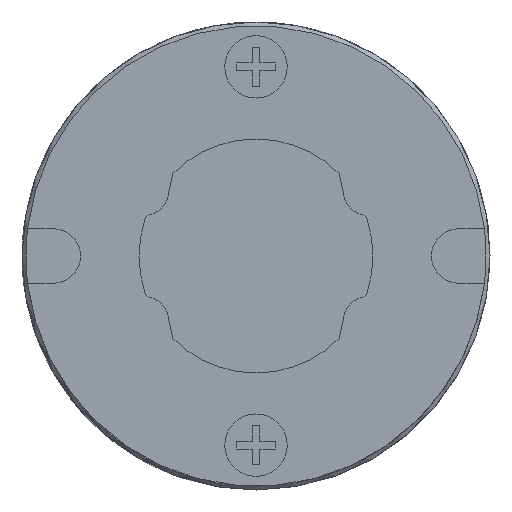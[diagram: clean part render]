
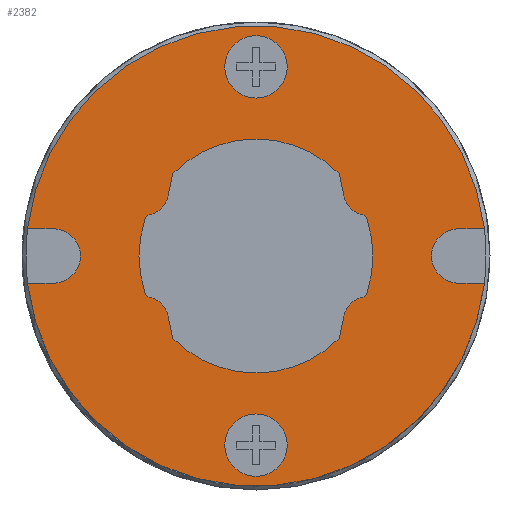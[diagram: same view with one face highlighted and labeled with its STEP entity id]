
A CAD part, left-side view. The second image highlights one B-rep face of the part: STEP entity #2382.
In plain terms, the highlighted planar face has unit normal (-1, 0, 0).
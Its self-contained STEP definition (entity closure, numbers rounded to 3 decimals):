
#50=PLANE('',#2605);
#190=LINE('',#3729,#432);
#191=LINE('',#3733,#433);
#192=LINE('',#3737,#434);
#193=LINE('',#3741,#435);
#194=LINE('',#3755,#436);
#195=LINE('',#3763,#437);
#196=LINE('',#3775,#438);
#197=LINE('',#3783,#439);
#432=VECTOR('',#3000,1000.);
#433=VECTOR('',#3003,1000.);
#434=VECTOR('',#3006,1000.);
#435=VECTOR('',#3009,1000.);
#436=VECTOR('',#3022,1000.);
#437=VECTOR('',#3029,1000.);
#438=VECTOR('',#3040,1000.);
#439=VECTOR('',#3047,1000.);
#796=ORIENTED_EDGE('',*,*,#1430,.T.);
#797=ORIENTED_EDGE('',*,*,#1431,.T.);
#798=ORIENTED_EDGE('',*,*,#1432,.T.);
#799=ORIENTED_EDGE('',*,*,#1433,.F.);
#800=ORIENTED_EDGE('',*,*,#1434,.T.);
#801=ORIENTED_EDGE('',*,*,#1435,.T.);
#802=ORIENTED_EDGE('',*,*,#1436,.T.);
#803=ORIENTED_EDGE('',*,*,#1364,.F.);
#804=ORIENTED_EDGE('',*,*,#1437,.F.);
#805=ORIENTED_EDGE('',*,*,#1438,.F.);
#806=ORIENTED_EDGE('',*,*,#1439,.F.);
#807=ORIENTED_EDGE('',*,*,#1440,.F.);
#808=ORIENTED_EDGE('',*,*,#1441,.F.);
#809=ORIENTED_EDGE('',*,*,#1442,.T.);
#810=ORIENTED_EDGE('',*,*,#1443,.F.);
#811=ORIENTED_EDGE('',*,*,#1444,.F.);
#812=ORIENTED_EDGE('',*,*,#1445,.F.);
#813=ORIENTED_EDGE('',*,*,#1446,.F.);
#814=ORIENTED_EDGE('',*,*,#1447,.F.);
#815=ORIENTED_EDGE('',*,*,#1448,.T.);
#816=ORIENTED_EDGE('',*,*,#1449,.F.);
#817=ORIENTED_EDGE('',*,*,#1450,.F.);
#818=ORIENTED_EDGE('',*,*,#1451,.F.);
#819=ORIENTED_EDGE('',*,*,#1452,.T.);
#820=ORIENTED_EDGE('',*,*,#1453,.F.);
#821=ORIENTED_EDGE('',*,*,#1454,.F.);
#822=ORIENTED_EDGE('',*,*,#1455,.F.);
#823=ORIENTED_EDGE('',*,*,#1456,.F.);
#824=ORIENTED_EDGE('',*,*,#1457,.F.);
#825=ORIENTED_EDGE('',*,*,#1458,.T.);
#1364=EDGE_CURVE('',#1692,#1693,#1918,.T.);
#1430=EDGE_CURVE('',#1692,#1756,#190,.T.);
#1431=EDGE_CURVE('',#1756,#1757,#1946,.T.);
#1432=EDGE_CURVE('',#1757,#1758,#191,.T.);
#1433=EDGE_CURVE('',#1759,#1758,#1947,.T.);
#1434=EDGE_CURVE('',#1759,#1760,#192,.T.);
#1435=EDGE_CURVE('',#1760,#1761,#1948,.T.);
#1436=EDGE_CURVE('',#1761,#1693,#193,.T.);
#1437=EDGE_CURVE('',#1762,#1762,#1949,.F.);
#1438=EDGE_CURVE('',#1763,#1763,#1950,.F.);
#1439=EDGE_CURVE('',#1764,#1765,#1951,.F.);
#1440=EDGE_CURVE('',#1766,#1764,#1952,.F.);
#1441=EDGE_CURVE('',#1767,#1766,#1953,.F.);
#1442=EDGE_CURVE('',#1767,#1768,#1954,.F.);
#1443=EDGE_CURVE('',#1769,#1768,#194,.T.);
#1444=EDGE_CURVE('',#1770,#1769,#1955,.F.);
#1445=EDGE_CURVE('',#1771,#1770,#1956,.F.);
#1446=EDGE_CURVE('',#1772,#1771,#1957,.F.);
#1447=EDGE_CURVE('',#1773,#1772,#195,.T.);
#1448=EDGE_CURVE('',#1773,#1774,#1958,.F.);
#1449=EDGE_CURVE('',#1775,#1774,#1959,.F.);
#1450=EDGE_CURVE('',#1776,#1775,#1960,.F.);
#1451=EDGE_CURVE('',#1777,#1776,#1961,.F.);
#1452=EDGE_CURVE('',#1777,#1778,#1962,.F.);
#1453=EDGE_CURVE('',#1779,#1778,#196,.T.);
#1454=EDGE_CURVE('',#1780,#1779,#1963,.F.);
#1455=EDGE_CURVE('',#1781,#1780,#1964,.F.);
#1456=EDGE_CURVE('',#1782,#1781,#1965,.F.);
#1457=EDGE_CURVE('',#1783,#1782,#197,.T.);
#1458=EDGE_CURVE('',#1783,#1765,#1966,.F.);
#1692=VERTEX_POINT('',#3594);
#1693=VERTEX_POINT('',#3595);
#1756=VERTEX_POINT('',#3730);
#1757=VERTEX_POINT('',#3732);
#1758=VERTEX_POINT('',#3734);
#1759=VERTEX_POINT('',#3736);
#1760=VERTEX_POINT('',#3738);
#1761=VERTEX_POINT('',#3740);
#1762=VERTEX_POINT('',#3743);
#1763=VERTEX_POINT('',#3745);
#1764=VERTEX_POINT('',#3747);
#1765=VERTEX_POINT('',#3748);
#1766=VERTEX_POINT('',#3750);
#1767=VERTEX_POINT('',#3752);
#1768=VERTEX_POINT('',#3754);
#1769=VERTEX_POINT('',#3756);
#1770=VERTEX_POINT('',#3758);
#1771=VERTEX_POINT('',#3760);
#1772=VERTEX_POINT('',#3762);
#1773=VERTEX_POINT('',#3764);
#1774=VERTEX_POINT('',#3766);
#1775=VERTEX_POINT('',#3768);
#1776=VERTEX_POINT('',#3770);
#1777=VERTEX_POINT('',#3772);
#1778=VERTEX_POINT('',#3774);
#1779=VERTEX_POINT('',#3776);
#1780=VERTEX_POINT('',#3778);
#1781=VERTEX_POINT('',#3780);
#1782=VERTEX_POINT('',#3782);
#1783=VERTEX_POINT('',#3784);
#1918=CIRCLE('',#2572,5.9);
#1946=CIRCLE('',#2606,0.7);
#1947=CIRCLE('',#2607,5.9);
#1948=CIRCLE('',#2608,0.7);
#1949=CIRCLE('',#2609,0.8);
#1950=CIRCLE('',#2610,0.8);
#1951=CIRCLE('',#2611,0.15);
#1952=CIRCLE('',#2612,3.);
#1953=CIRCLE('',#2613,0.15);
#1954=CIRCLE('',#2614,0.63);
#1955=CIRCLE('',#2615,0.15);
#1956=CIRCLE('',#2616,3.);
#1957=CIRCLE('',#2617,0.15);
#1958=CIRCLE('',#2618,0.63);
#1959=CIRCLE('',#2619,0.15);
#1960=CIRCLE('',#2620,3.);
#1961=CIRCLE('',#2621,0.15);
#1962=CIRCLE('',#2622,0.63);
#1963=CIRCLE('',#2623,0.15);
#1964=CIRCLE('',#2624,3.);
#1965=CIRCLE('',#2625,0.15);
#1966=CIRCLE('',#2626,0.63);
#2017=EDGE_LOOP('',(#796,#797,#798,#799,#800,#801,#802,#803));
#2018=EDGE_LOOP('',(#804));
#2019=EDGE_LOOP('',(#805));
#2020=EDGE_LOOP('',(#806,#807,#808,#809,#810,#811,#812,#813,#814,#815,#816,
#817,#818,#819,#820,#821,#822,#823,#824,#825));
#2177=FACE_BOUND('',#2017,.T.);
#2178=FACE_BOUND('',#2018,.T.);
#2179=FACE_BOUND('',#2019,.T.);
#2180=FACE_BOUND('',#2020,.T.);
#2382=ADVANCED_FACE('',(#2177,#2178,#2179,#2180),#50,.F.);
#2572=AXIS2_PLACEMENT_3D('',#3593,#2894,#2895);
#2605=AXIS2_PLACEMENT_3D('',#3728,#2998,#2999);
#2606=AXIS2_PLACEMENT_3D('',#3731,#3001,#3002);
#2607=AXIS2_PLACEMENT_3D('',#3735,#3004,#3005);
#2608=AXIS2_PLACEMENT_3D('',#3739,#3007,#3008);
#2609=AXIS2_PLACEMENT_3D('',#3742,#3010,#3011);
#2610=AXIS2_PLACEMENT_3D('',#3744,#3012,#3013);
#2611=AXIS2_PLACEMENT_3D('',#3746,#3014,#3015);
#2612=AXIS2_PLACEMENT_3D('',#3749,#3016,#3017);
#2613=AXIS2_PLACEMENT_3D('',#3751,#3018,#3019);
#2614=AXIS2_PLACEMENT_3D('',#3753,#3020,#3021);
#2615=AXIS2_PLACEMENT_3D('',#3757,#3023,#3024);
#2616=AXIS2_PLACEMENT_3D('',#3759,#3025,#3026);
#2617=AXIS2_PLACEMENT_3D('',#3761,#3027,#3028);
#2618=AXIS2_PLACEMENT_3D('',#3765,#3030,#3031);
#2619=AXIS2_PLACEMENT_3D('',#3767,#3032,#3033);
#2620=AXIS2_PLACEMENT_3D('',#3769,#3034,#3035);
#2621=AXIS2_PLACEMENT_3D('',#3771,#3036,#3037);
#2622=AXIS2_PLACEMENT_3D('',#3773,#3038,#3039);
#2623=AXIS2_PLACEMENT_3D('',#3777,#3041,#3042);
#2624=AXIS2_PLACEMENT_3D('',#3779,#3043,#3044);
#2625=AXIS2_PLACEMENT_3D('',#3781,#3045,#3046);
#2626=AXIS2_PLACEMENT_3D('',#3785,#3048,#3049);
#2894=DIRECTION('',(1.,0.,0.));
#2895=DIRECTION('',(0.,0.,-1.));
#2998=DIRECTION('',(1.,0.,0.));
#2999=DIRECTION('',(0.,0.,-1.));
#3000=DIRECTION('',(0.,-1.,0.));
#3001=DIRECTION('',(1.,0.,0.));
#3002=DIRECTION('',(0.,0.,-1.));
#3003=DIRECTION('',(0.,1.,0.));
#3004=DIRECTION('',(1.,0.,0.));
#3005=DIRECTION('',(0.,0.,-1.));
#3006=DIRECTION('',(0.,1.,0.));
#3007=DIRECTION('',(1.,0.,0.));
#3008=DIRECTION('',(0.,0.,-1.));
#3009=DIRECTION('',(0.,-1.,0.));
#3010=DIRECTION('',(1.,0.,0.));
#3011=DIRECTION('',(0.,0.,-1.));
#3012=DIRECTION('',(1.,0.,0.));
#3013=DIRECTION('',(0.,0.,-1.));
#3014=DIRECTION('',(1.,0.,0.));
#3015=DIRECTION('',(0.,0.,-1.));
#3016=DIRECTION('',(1.,0.,0.));
#3017=DIRECTION('',(0.,0.,-1.));
#3018=DIRECTION('',(1.,0.,0.));
#3019=DIRECTION('',(0.,0.,-1.));
#3020=DIRECTION('',(1.,0.,0.));
#3021=DIRECTION('',(0.,0.,-1.));
#3022=DIRECTION('',(0.,0.197,-0.98));
#3023=DIRECTION('',(1.,0.,0.));
#3024=DIRECTION('',(0.,0.,-1.));
#3025=DIRECTION('',(1.,0.,0.));
#3026=DIRECTION('',(0.,0.,-1.));
#3027=DIRECTION('',(1.,0.,0.));
#3028=DIRECTION('',(0.,0.,-1.));
#3029=DIRECTION('',(0.,0.197,0.98));
#3030=DIRECTION('',(1.,0.,0.));
#3031=DIRECTION('',(0.,0.,-1.));
#3032=DIRECTION('',(1.,0.,0.));
#3033=DIRECTION('',(0.,0.,-1.));
#3034=DIRECTION('',(1.,0.,0.));
#3035=DIRECTION('',(0.,0.,-1.));
#3036=DIRECTION('',(1.,0.,0.));
#3037=DIRECTION('',(0.,0.,-1.));
#3038=DIRECTION('',(1.,0.,0.));
#3039=DIRECTION('',(0.,0.,-1.));
#3040=DIRECTION('',(0.,-0.197,0.98));
#3041=DIRECTION('',(1.,0.,0.));
#3042=DIRECTION('',(0.,0.,-1.));
#3043=DIRECTION('',(1.,0.,0.));
#3044=DIRECTION('',(0.,0.,-1.));
#3045=DIRECTION('',(1.,0.,0.));
#3046=DIRECTION('',(0.,0.,-1.));
#3047=DIRECTION('',(0.,-0.197,-0.98));
#3048=DIRECTION('',(1.,0.,0.));
#3049=DIRECTION('',(0.,0.,-1.));
#3593=CARTESIAN_POINT('',(-13.8,0.,0.));
#3594=CARTESIAN_POINT('',(-13.8,5.858,0.7));
#3595=CARTESIAN_POINT('',(-13.8,-5.858,0.7));
#3728=CARTESIAN_POINT('',(-13.8,0.,0.));
#3729=CARTESIAN_POINT('',(-13.8,0.,0.7));
#3730=CARTESIAN_POINT('',(-13.8,5.2,0.7));
#3731=CARTESIAN_POINT('',(-13.8,5.2,0.));
#3732=CARTESIAN_POINT('',(-13.8,5.2,-0.7));
#3733=CARTESIAN_POINT('',(-13.8,0.,-0.7));
#3734=CARTESIAN_POINT('',(-13.8,5.858,-0.7));
#3735=CARTESIAN_POINT('',(-13.8,0.,0.));
#3736=CARTESIAN_POINT('',(-13.8,-5.858,-0.7));
#3737=CARTESIAN_POINT('',(-13.8,0.,-0.7));
#3738=CARTESIAN_POINT('',(-13.8,-5.2,-0.7));
#3739=CARTESIAN_POINT('',(-13.8,-5.2,0.));
#3740=CARTESIAN_POINT('',(-13.8,-5.2,0.7));
#3741=CARTESIAN_POINT('',(-13.8,0.,0.7));
#3742=CARTESIAN_POINT('',(-13.8,0.,-4.85));
#3743=CARTESIAN_POINT('',(-13.8,0.,-5.65));
#3744=CARTESIAN_POINT('',(-13.8,0.,4.85));
#3745=CARTESIAN_POINT('',(-13.8,0.,4.05));
#3746=CARTESIAN_POINT('',(-13.8,2.701,-0.908));
#3747=CARTESIAN_POINT('',(-13.8,2.844,-0.956));
#3748=CARTESIAN_POINT('',(-13.8,2.734,-1.055));
#3749=CARTESIAN_POINT('',(-13.8,0.,0.));
#3750=CARTESIAN_POINT('',(-13.8,2.844,0.956));
#3751=CARTESIAN_POINT('',(-13.8,2.701,0.908));
#3752=CARTESIAN_POINT('',(-13.8,2.734,1.055));
#3753=CARTESIAN_POINT('',(-13.8,2.87,1.67));
#3754=CARTESIAN_POINT('',(-13.8,2.252,1.546));
#3755=CARTESIAN_POINT('',(-13.8,2.464,0.495));
#3756=CARTESIAN_POINT('',(-13.8,2.147,2.07));
#3757=CARTESIAN_POINT('',(-13.8,2.,2.04));
#3758=CARTESIAN_POINT('',(-13.8,2.133,2.11));
#3759=CARTESIAN_POINT('',(-13.8,0.,0.));
#3760=CARTESIAN_POINT('',(-13.8,-2.133,2.11));
#3761=CARTESIAN_POINT('',(-13.8,-2.,2.04));
#3762=CARTESIAN_POINT('',(-13.8,-2.147,2.07));
#3763=CARTESIAN_POINT('',(-13.8,-2.464,0.495));
#3764=CARTESIAN_POINT('',(-13.8,-2.252,1.546));
#3765=CARTESIAN_POINT('',(-13.8,-2.87,1.67));
#3766=CARTESIAN_POINT('',(-13.8,-2.734,1.055));
#3767=CARTESIAN_POINT('',(-13.8,-2.701,0.908));
#3768=CARTESIAN_POINT('',(-13.8,-2.844,0.956));
#3769=CARTESIAN_POINT('',(-13.8,0.,0.));
#3770=CARTESIAN_POINT('',(-13.8,-2.844,-0.956));
#3771=CARTESIAN_POINT('',(-13.8,-2.701,-0.908));
#3772=CARTESIAN_POINT('',(-13.8,-2.734,-1.055));
#3773=CARTESIAN_POINT('',(-13.8,-2.87,-1.67));
#3774=CARTESIAN_POINT('',(-13.8,-2.252,-1.546));
#3775=CARTESIAN_POINT('',(-13.8,-2.464,-0.495));
#3776=CARTESIAN_POINT('',(-13.8,-2.147,-2.07));
#3777=CARTESIAN_POINT('',(-13.8,-2.,-2.04));
#3778=CARTESIAN_POINT('',(-13.8,-2.133,-2.11));
#3779=CARTESIAN_POINT('',(-13.8,0.,0.));
#3780=CARTESIAN_POINT('',(-13.8,2.133,-2.11));
#3781=CARTESIAN_POINT('',(-13.8,2.,-2.04));
#3782=CARTESIAN_POINT('',(-13.8,2.147,-2.07));
#3783=CARTESIAN_POINT('',(-13.8,2.464,-0.495));
#3784=CARTESIAN_POINT('',(-13.8,2.252,-1.546));
#3785=CARTESIAN_POINT('',(-13.8,2.87,-1.67));
